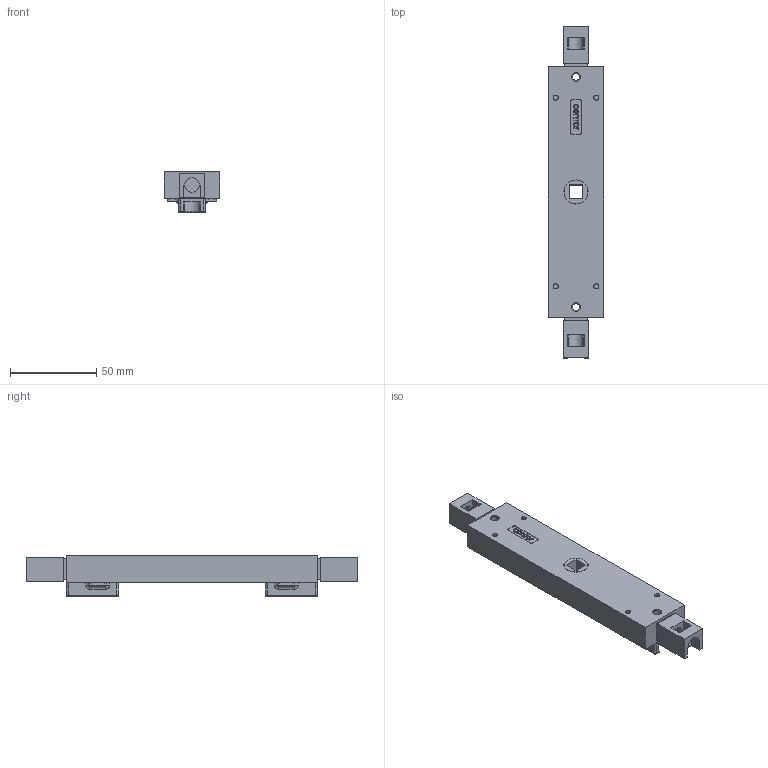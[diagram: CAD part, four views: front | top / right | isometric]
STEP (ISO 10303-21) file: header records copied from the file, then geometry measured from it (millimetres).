
FILE_DESCRIPTION (( 'STEP AP214' ), '1' );
FILE_NAME ('TPL-H-006-sss.STEP', '2024-07-11T04:30:59', ( '' ), ( '' ), 'SwSTEP 2.0', 'SolidWorks 2023', '' );
FILE_SCHEMA (( 'AUTOMOTIVE_DESIGN' ));
Length unit declared in the file: millimetre
Products named in the file (5): Copy of TPL-H-506^TPL-H-500; Copy of TPLGen2 lock body non-keyed assembly^TPL-H-500_Bolts retracted; TPL-H-006-sss; TPLGen2 push rod - simplified_Female thread M10; Copy of TPLGen2 lock body non-keyed^Copy of TPLGen2 lock body non-keyed assembly_TPL-H-500
Assembly tree (6 placements, depth 3):
  TPL-H-006-sss
    Copy of TPLGen2 lock body non-keyed assembly^TPL-H-500_Bolts retracted
      Copy of TPLGen2 lock body non-keyed^Copy of TPLGen2 lock body non-keyed assembly_TPL-H-500
      TPLGen2 push rod - simplified_Female thread M10  x2
    Copy of TPL-H-506^TPL-H-500  x2
Bounding box: 32 x 192.6 x 23.5 mm (x, y, z)
Volume: 81816.9 mm3; surface area: 33005 mm2
Topology: 5 solids, 5 shells, 560 faces, 1421 edges, 894 vertices
Faces by surface type: plane 241, cylinder 158, bspline 97, torus 42, sphere 14, cone 8
Entity records: 12572 total; most frequent: CARTESIAN_POINT 3752, ORIENTED_EDGE 1890, DIRECTION 1619, EDGE_CURVE 945, VERTEX_POINT 606, LINE 553, VECTOR 553, AXIS2_PLACEMENT_3D 533
